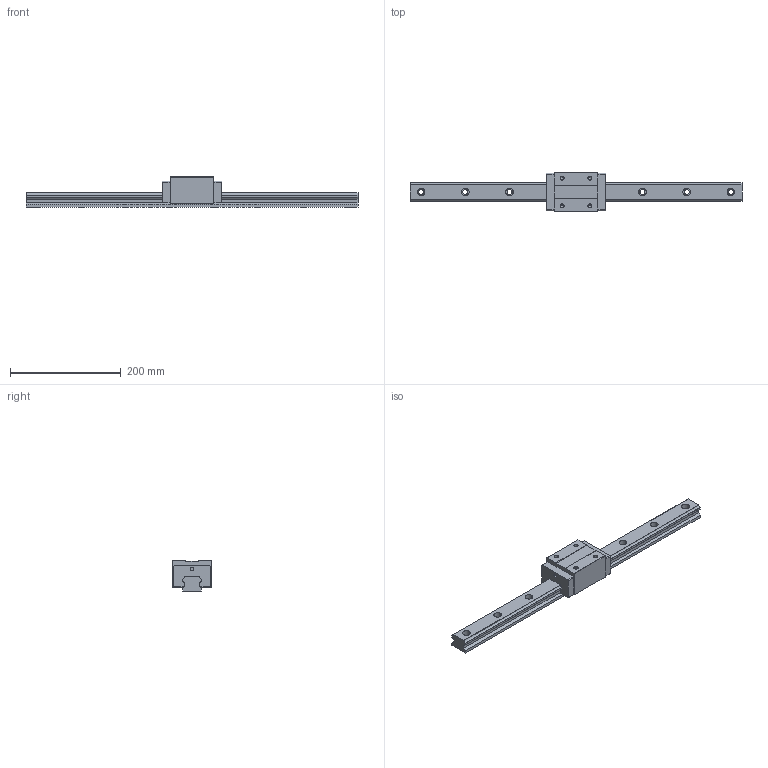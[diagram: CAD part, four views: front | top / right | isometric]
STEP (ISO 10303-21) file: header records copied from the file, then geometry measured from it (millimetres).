
FILE_DESCRIPTION (( 'STEP AP203' ), '1' );
FILE_NAME ('TRH35VN-XNC.STEP', '2024-08-16T06:46:56', ( '' ), ( '' ), 'SwSTEP 2.0', 'SolidWorks 2021', '' );
FILE_SCHEMA (( 'CONFIG_CONTROL_DESIGN' ));
Length unit declared in the file: millimetre
Products named in the file (1): TRH35VN-XNC
Bounding box: 600 x 70 x 55 mm (x, y, z)
Volume: 724996 mm3; surface area: 114741.9 mm2
Topology: 1 solids, 1 shells, 176 faces, 480 edges, 308 vertices
Faces by surface type: cylinder 80, plane 80, cone 16
Entity records: 5641 total; most frequent: DIRECTION 998, CARTESIAN_POINT 957, ORIENTED_EDGE 944, EDGE_CURVE 472, AXIS2_PLACEMENT_3D 349, VERTEX_POINT 308, VECTOR 300, LINE 300
